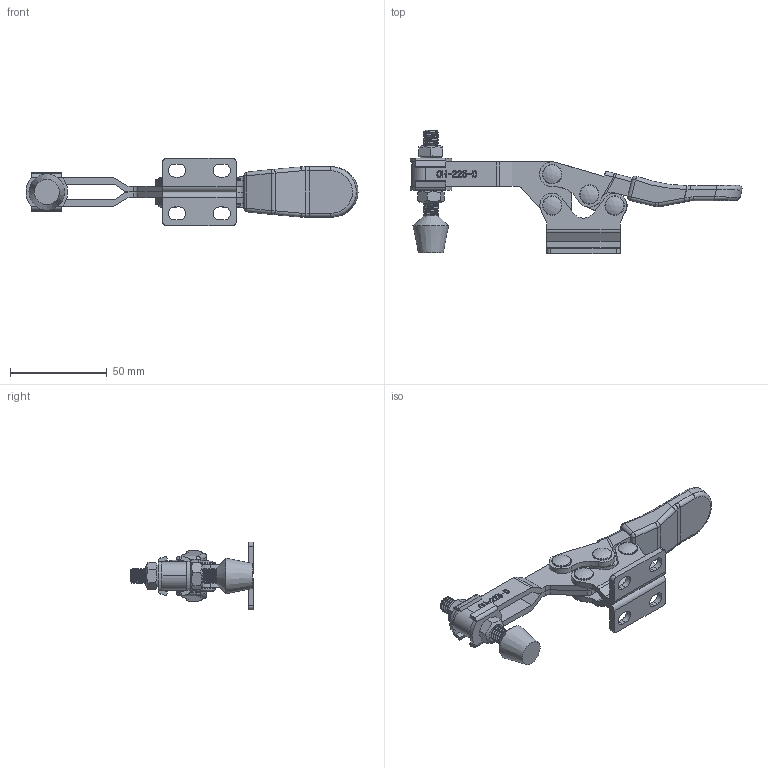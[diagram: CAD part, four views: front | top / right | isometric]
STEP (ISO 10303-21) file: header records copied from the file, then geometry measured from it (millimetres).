
FILE_DESCRIPTION(/* description */ ('STEP AP203'),/* implementation_level */ '2;1');
FILE_NAME(/* name */ 'E:\STRONA\Horizontal toggle clamp\CH-225-D\CH-225-D_ZAMKNIETY.stp',/* time_stamp */ '2019-01-15T14:50:51+01:00',/* author */ ('Admin'),/* organization */ ('·L?¤¤?'),/* preprocessor_version */ 'ST-DEVELOPER v17.2',/* originating_system */ 'Autodesk Inventor 2019',/* authorisation */ '');
FILE_SCHEMA (('AUTOMOTIVE_DESIGN { 1 0 10303 214 3 1 1 }'));
Length unit declared in the file: millimetre
Products named in the file (11): CH-225-D_ZAMKNIETY; 225-D-02___; CH-FC-56212___; 225-D-01___; 225-D-04___; 225-D-03___; 225-D-03____1; 1___; FW-516___; 56212-01___; 225-D-05___
Assembly tree (16 placements, depth 3):
  CH-225-D_ZAMKNIETY
    225-D-02___
    225-D-05___  x4
    CH-FC-56212___
    225-D-04___  x2
    225-D-01___
    56212-01___  x2
    225-D-03___
      225-D-03____1
      1___
    FW-516___  x2
Bounding box: 171.9 x 64.09 x 35 mm (x, y, z)
Volume: 42668.1 mm3; surface area: 37896.7 mm2
Topology: 17 solids, 17 shells, 759 faces, 2086 edges, 1391 vertices
Faces by surface type: plane 332, bspline 194, cylinder 185, torus 20, cone 16, sphere 12
Full cylindrical faces by diameter (mm): 3 x1, 4 x1, 4.833 x4, 6.3 x10, 6.4 x16, 7.92 x32, 8.1 x2, 10 x8
Entity records: 50135 total; most frequent: CARTESIAN_POINT 33529, ORIENTED_EDGE 3738, DIRECTION 2765, EDGE_CURVE 1869, VERTEX_POINT 1240, LINE 1047, VECTOR 1047, AXIS2_PLACEMENT_3D 859
